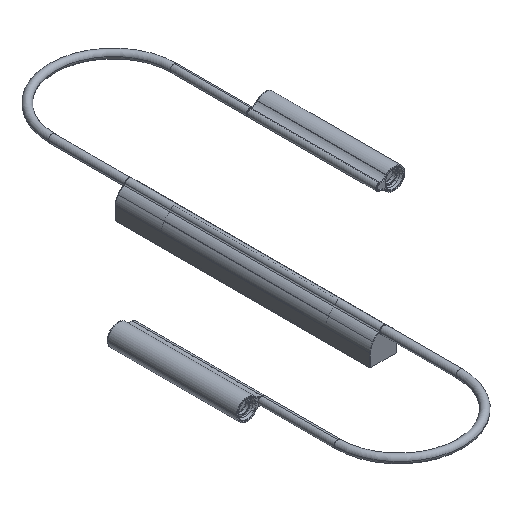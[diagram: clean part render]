
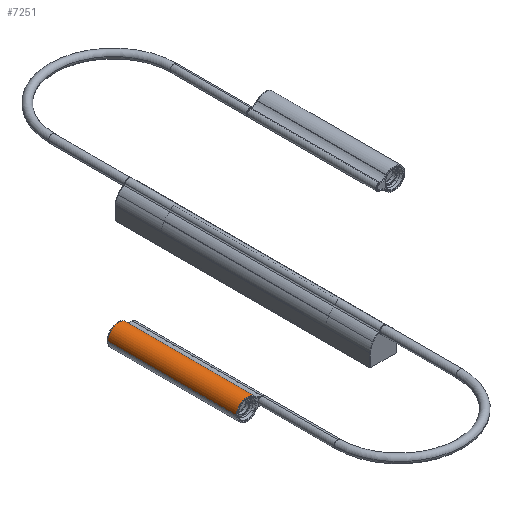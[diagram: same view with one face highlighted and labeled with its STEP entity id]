
A CAD part, isometric view. The second image highlights one B-rep face of the part: STEP entity #7251.
In plain terms, the highlighted cylindrical face has radius 14 mm (diameter 28 mm), a partial arc.
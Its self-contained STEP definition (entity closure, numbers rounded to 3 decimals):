
#37 = AXIS2_PLACEMENT_3D ( 'NONE', #5925, #311, #10852 ) ;
#215 = FACE_OUTER_BOUND ( 'NONE', #2526, .T. ) ;
#311 = DIRECTION ( 'NONE',  ( 0., -1., 0. ) ) ;
#946 = CIRCLE ( 'NONE', #5589, 14. ) ;
#1088 = CYLINDRICAL_SURFACE ( 'NONE', #37, 14. ) ;
#1148 = VERTEX_POINT ( 'NONE', #10850 ) ;
#1724 = CARTESIAN_POINT ( 'NONE',  ( -178.975, 2.25, 14.863 ) ) ;
#2182 = ORIENTED_EDGE ( 'NONE', *, *, #4126, .T. ) ;
#2526 = EDGE_LOOP ( 'NONE', ( #2589, #2182, #9885, #5310 ) ) ;
#2589 = ORIENTED_EDGE ( 'NONE', *, *, #6437, .T. ) ;
#2750 = CIRCLE ( 'NONE', #10864, 14. ) ;
#2828 = VERTEX_POINT ( 'NONE', #3275 ) ;
#3159 = VERTEX_POINT ( 'NONE', #6976 ) ;
#3275 = CARTESIAN_POINT ( 'NONE',  ( -168.856, -167.25, 24.537 ) ) ;
#3357 = CARTESIAN_POINT ( 'NONE',  ( -178.975, -167.25, 14.863 ) ) ;
#4118 = CARTESIAN_POINT ( 'NONE',  ( -168.856, 2.5, 24.537 ) ) ;
#4126 = EDGE_CURVE ( 'NONE', #4761, #3159, #5535, .T. ) ;
#4761 = VERTEX_POINT ( 'NONE', #10526 ) ;
#5282 = DIRECTION ( 'NONE',  ( 0.999, 0., 0.051 ) ) ;
#5310 = ORIENTED_EDGE ( 'NONE', *, *, #7723, .F. ) ;
#5535 = LINE ( 'NONE', #8426, #8772 ) ;
#5589 = AXIS2_PLACEMENT_3D ( 'NONE', #3357, #8028, #5282 ) ;
#5925 = CARTESIAN_POINT ( 'NONE',  ( -178.975, 2.5, 14.863 ) ) ;
#6408 = DIRECTION ( 'NONE',  ( 0., -1., 0. ) ) ;
#6437 = EDGE_CURVE ( 'NONE', #1148, #4761, #2750, .T. ) ;
#6609 = DIRECTION ( 'NONE',  ( 0., -1., 0. ) ) ;
#6812 = EDGE_CURVE ( 'NONE', #3159, #2828, #946, .T. ) ;
#6976 = CARTESIAN_POINT ( 'NONE',  ( -192.957, -167.25, 14.15 ) ) ;
#7251 = ADVANCED_FACE ( 'NONE', ( #215 ), #1088, .T. ) ;
#7723 = EDGE_CURVE ( 'NONE', #1148, #2828, #10670, .T. ) ;
#8028 = DIRECTION ( 'NONE',  ( 0., 1., 0. ) ) ;
#8426 = CARTESIAN_POINT ( 'NONE',  ( -192.957, 2.5, 14.15 ) ) ;
#8714 = DIRECTION ( 'NONE',  ( 0., -1., 0. ) ) ;
#8772 = VECTOR ( 'NONE', #6609, 1000. ) ;
#9645 = VECTOR ( 'NONE', #8714, 1000. ) ;
#9885 = ORIENTED_EDGE ( 'NONE', *, *, #6812, .T. ) ;
#10346 = DIRECTION ( 'NONE',  ( 0.999, 0., 0.051 ) ) ;
#10526 = CARTESIAN_POINT ( 'NONE',  ( -192.957, 2.25, 14.15 ) ) ;
#10670 = LINE ( 'NONE', #4118, #9645 ) ;
#10850 = CARTESIAN_POINT ( 'NONE',  ( -168.856, 2.25, 24.537 ) ) ;
#10852 = DIRECTION ( 'NONE',  ( -0.999, 0., -0.051 ) ) ;
#10864 = AXIS2_PLACEMENT_3D ( 'NONE', #1724, #6408, #10346 ) ;
